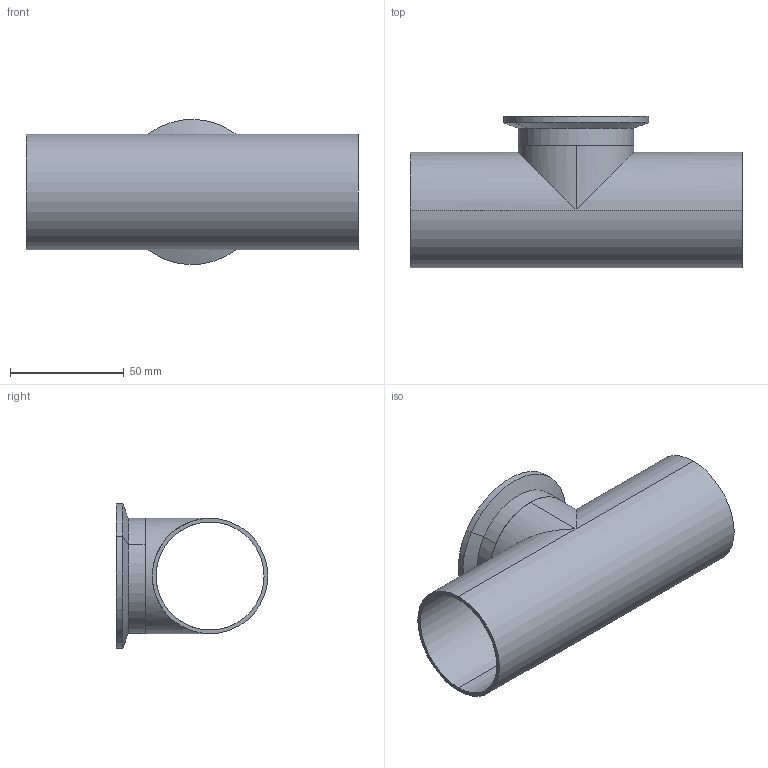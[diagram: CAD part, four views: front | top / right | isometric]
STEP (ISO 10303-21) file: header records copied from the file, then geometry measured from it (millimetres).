
FILE_DESCRIPTION (( 'STEP AP203' ), '1' );
FILE_NAME ('E7WWCS2.0.STEP', '2018-05-02T19:58:08', ( 'vneprd' ), ( 'Microsoft' ), 'SwSTEP 2.0', 'SolidWorks 2014', '' );
FILE_SCHEMA (( 'CONFIG_CONTROL_DESIGN' ));
Length unit declared in the file: inch
Products named in the file (3): EG2CS2.0; E7WWCS2.0; V7WS2.0
Assembly tree (2 placements, depth 2):
  E7WWCS2.0
    V7WS2.0
    EG2CS2.0
Bounding box: 146.05 x 66.67 x 63.81 mm (x, y, z)
Volume: 43869.9 mm3; surface area: 51889.9 mm2
Topology: 2 solids, 2 shells, 34 faces, 70 edges, 40 vertices
Faces by surface type: cylinder 16, plane 6, cone 6, torus 6
Entity records: 1219 total; most frequent: DIRECTION 186, CARTESIAN_POINT 161, ORIENTED_EDGE 140, AXIS2_PLACEMENT_3D 81, EDGE_CURVE 70, CIRCLE 42, EDGE_LOOP 40, VERTEX_POINT 40
